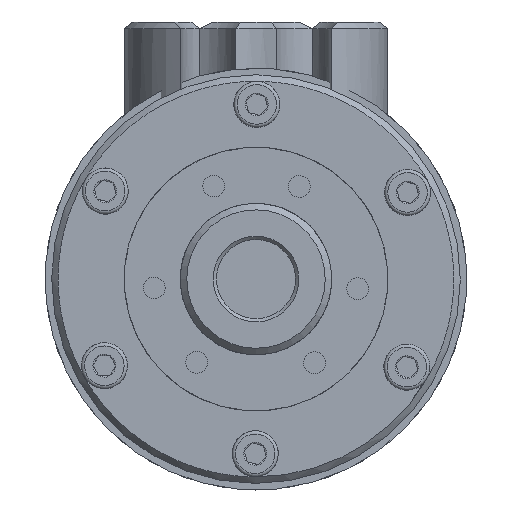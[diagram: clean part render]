
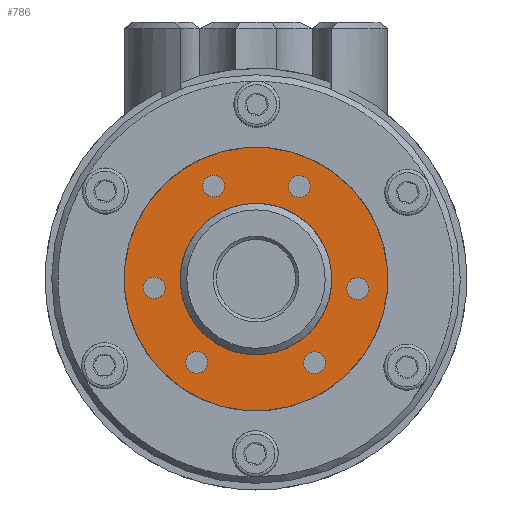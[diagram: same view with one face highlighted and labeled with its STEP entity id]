
A CAD part, left-side view. The second image highlights one B-rep face of the part: STEP entity #786.
In plain terms, the highlighted planar face has unit normal (-1, 0, 0) as drawn and (0, -1, 0) by its records, which use the part's own axes.
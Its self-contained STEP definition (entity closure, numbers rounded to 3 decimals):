
#786 = ADVANCED_FACE( '', ( #1550, #1551, #1552, #1553, #1554, #1555, #1556, #1557 ), #1558, .F. );
#1550 = FACE_OUTER_BOUND( '', #2713, .T. );
#1551 = FACE_BOUND( '', #2714, .T. );
#1552 = FACE_BOUND( '', #2715, .T. );
#1553 = FACE_BOUND( '', #2716, .T. );
#1554 = FACE_BOUND( '', #2717, .T. );
#1555 = FACE_BOUND( '', #2718, .T. );
#1556 = FACE_BOUND( '', #2719, .T. );
#1557 = FACE_BOUND( '', #2720, .T. );
#1558 = PLANE( '', #2721 );
#2713 = EDGE_LOOP( '', ( #4674 ) );
#2714 = EDGE_LOOP( '', ( #4675 ) );
#2715 = EDGE_LOOP( '', ( #4676 ) );
#2716 = EDGE_LOOP( '', ( #4677 ) );
#2717 = EDGE_LOOP( '', ( #4678 ) );
#2718 = EDGE_LOOP( '', ( #4679 ) );
#2719 = EDGE_LOOP( '', ( #4680 ) );
#2720 = EDGE_LOOP( '', ( #4681 ) );
#2721 = AXIS2_PLACEMENT_3D( '', #4682, #4683, #4684 );
#4674 = ORIENTED_EDGE( '', *, *, #7131, .T. );
#4675 = ORIENTED_EDGE( '', *, *, #7143, .F. );
#4676 = ORIENTED_EDGE( '', *, *, #7144, .F. );
#4677 = ORIENTED_EDGE( '', *, *, #7145, .F. );
#4678 = ORIENTED_EDGE( '', *, *, #7141, .F. );
#4679 = ORIENTED_EDGE( '', *, *, #7140, .F. );
#4680 = ORIENTED_EDGE( '', *, *, #7132, .F. );
#4681 = ORIENTED_EDGE( '', *, *, #7142, .F. );
#4682 = CARTESIAN_POINT( '', ( 0., 0., 20. ) );
#4683 = DIRECTION( '', ( 0., 1., 0. ) );
#4684 = DIRECTION( '', ( 1., 0., 0. ) );
#7131 = EDGE_CURVE( '', #8075, #8075, #8076, .T. );
#7132 = EDGE_CURVE( '', #8077, #8077, #8078, .T. );
#7140 = EDGE_CURVE( '', #8093, #8093, #8094, .T. );
#7141 = EDGE_CURVE( '', #8095, #8095, #8096, .T. );
#7142 = EDGE_CURVE( '', #8097, #8097, #8098, .T. );
#7143 = EDGE_CURVE( '', #8099, #8099, #8100, .T. );
#7144 = EDGE_CURVE( '', #8101, #8101, #8102, .T. );
#7145 = EDGE_CURVE( '', #8103, #8103, #8104, .T. );
#8075 = VERTEX_POINT( '', #9801 );
#8076 = CIRCLE( '', #9802, 20. );
#8077 = VERTEX_POINT( '', #9803 );
#8078 = CIRCLE( '', #9804, 1.65 );
#8093 = VERTEX_POINT( '', #9819 );
#8094 = CIRCLE( '', #9820, 1.65 );
#8095 = VERTEX_POINT( '', #9821 );
#8096 = CIRCLE( '', #9822, 1.65 );
#8097 = VERTEX_POINT( '', #9823 );
#8098 = CIRCLE( '', #9824, 11.5 );
#8099 = VERTEX_POINT( '', #9825 );
#8100 = CIRCLE( '', #9826, 1.65 );
#8101 = VERTEX_POINT( '', #9827 );
#8102 = CIRCLE( '', #9828, 1.65 );
#8103 = VERTEX_POINT( '', #9829 );
#8104 = CIRCLE( '', #9830, 1.65 );
#9801 = CARTESIAN_POINT( '', ( 0., 0., -20. ) );
#9802 = AXIS2_PLACEMENT_3D( '', #11984, #11985, #11986 );
#9803 = CARTESIAN_POINT( '', ( -13.85, 0., 0. ) );
#9804 = AXIS2_PLACEMENT_3D( '', #11987, #11988, #11989 );
#9819 = CARTESIAN_POINT( '', ( -8.398, 0., 11.802 ) );
#9820 = AXIS2_PLACEMENT_3D( '', #12011, #12012, #12013 );
#9821 = CARTESIAN_POINT( '', ( 6.925, 0., 11.994 ) );
#9822 = AXIS2_PLACEMENT_3D( '', #12014, #12015, #12016 );
#9823 = CARTESIAN_POINT( '', ( 0., 0., -11.5 ) );
#9824 = AXIS2_PLACEMENT_3D( '', #12017, #12018, #12019 );
#9825 = CARTESIAN_POINT( '', ( -6.021, 0., -13.174 ) );
#9826 = AXIS2_PLACEMENT_3D( '', #12020, #12021, #12022 );
#9827 = CARTESIAN_POINT( '', ( 6.925, 0., -11.994 ) );
#9828 = AXIS2_PLACEMENT_3D( '', #12023, #12024, #12025 );
#9829 = CARTESIAN_POINT( '', ( 14.42, 0., 1.372 ) );
#9830 = AXIS2_PLACEMENT_3D( '', #12026, #12027, #12028 );
#11984 = CARTESIAN_POINT( '', ( 0., 0., 0. ) );
#11985 = DIRECTION( '', ( 0., -1., 0. ) );
#11986 = DIRECTION( '', ( 0., 0., -1. ) );
#11987 = CARTESIAN_POINT( '', ( -15.5, 0., 0. ) );
#11988 = DIRECTION( '', ( 0., -1., 0. ) );
#11989 = DIRECTION( '', ( 1., 0., 0. ) );
#12011 = CARTESIAN_POINT( '', ( -10.048, 0., 11.802 ) );
#12012 = DIRECTION( '', ( 0., -1., 0. ) );
#12013 = DIRECTION( '', ( 1., 0., 0. ) );
#12014 = CARTESIAN_POINT( '', ( 7.75, 0., 13.423 ) );
#12015 = DIRECTION( '', ( 0., -1., 0. ) );
#12016 = DIRECTION( '', ( -0.5, 0., -0.866 ) );
#12017 = CARTESIAN_POINT( '', ( 0., 0., 0. ) );
#12018 = DIRECTION( '', ( 0., -1., 0. ) );
#12019 = DIRECTION( '', ( 0., 0., -1. ) );
#12020 = CARTESIAN_POINT( '', ( -5.196, 0., -14.603 ) );
#12021 = DIRECTION( '', ( 0., -1., 0. ) );
#12022 = DIRECTION( '', ( -0.5, 0., 0.866 ) );
#12023 = CARTESIAN_POINT( '', ( 7.75, 0., -13.423 ) );
#12024 = DIRECTION( '', ( 0., -1., 0. ) );
#12025 = DIRECTION( '', ( -0.5, 0., 0.866 ) );
#12026 = CARTESIAN_POINT( '', ( 15.245, 0., 2.801 ) );
#12027 = DIRECTION( '', ( 0., -1., 0. ) );
#12028 = DIRECTION( '', ( -0.5, 0., -0.866 ) );
